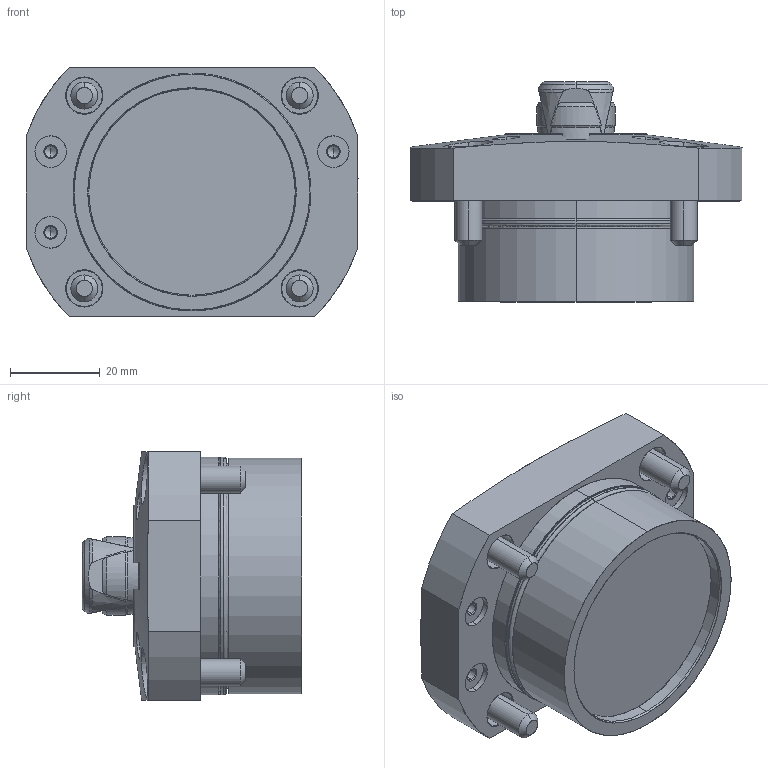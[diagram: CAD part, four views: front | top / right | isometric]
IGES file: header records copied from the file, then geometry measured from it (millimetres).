
Start section: SolidWorks IGES file using analytic representation for surfaces
Global section: file name: L:\電子カタログ-3Ｄ\SFH\ｱｾﾝﾌﾞﾘ\SFH3180_N.IGS; native system: SolidWorks 2010; preprocessor: SolidWorks 2010; author: D214; date: 101104.083938; units: millimetre
Bounding box: 74 x 49 x 55.5 mm (x, y, z)
Surface area: 30362.8 mm2 (no closed solid volume)
Topology: 0 solids, 0 shells, 552 faces, 6969 edges, 6941 vertices
Faces by surface type: revolution 310, bspline 242
